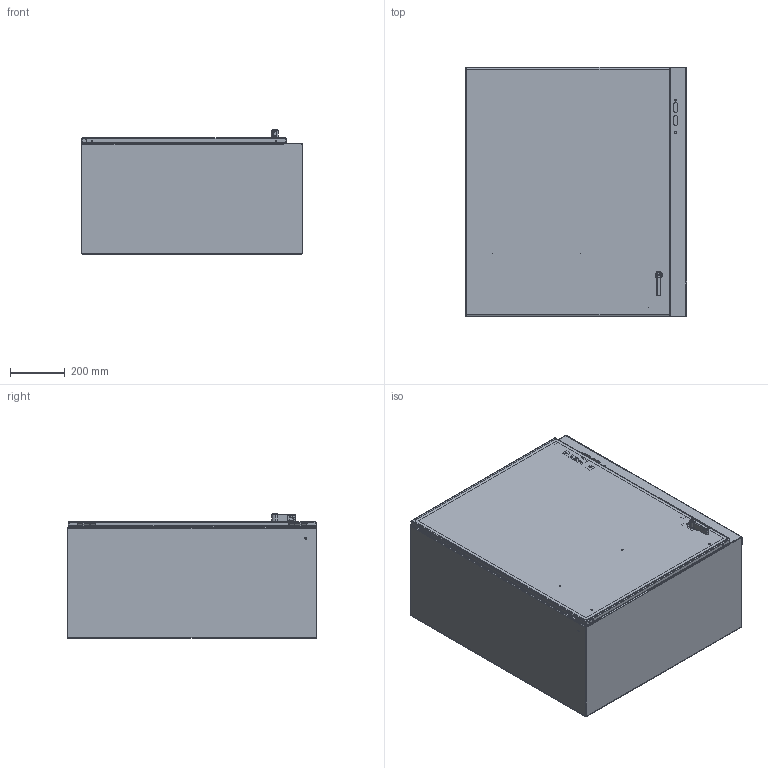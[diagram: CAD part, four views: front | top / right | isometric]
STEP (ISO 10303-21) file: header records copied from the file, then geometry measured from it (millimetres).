
FILE_DESCRIPTION (( 'STEP AP203' ), '1' );
FILE_NAME ('cdsc363216.STEP', '2020-02-14T16:02:57', ( '' ), ( '' ), 'SwSTEP 2.0', 'SolidWorks 2016', '' );
FILE_SCHEMA (( 'CONFIG_CONTROL_DESIGN' ));
Length unit declared in the file: inch
Products named in the file (43): 89076193; 64157001_Locked; 87938420_fip; 64205001; 64212004; 89173485; 87555298; 99411612; 87543027; 79410_LOCKED; 99401225_Config-Drawing; 99411834; 87784879_CWHPTO; 23271001_After Weld; 99411839_99411839; 89131630; 89173484; 87938398_assy; 99401225; 87938377; 89123200; 87541995; 87540678; 89117427; 87938434; 89117426; 64206006; 87415912_Locked; 51123001_Post weld; 89076399; 89117424; 64208001; cdsc363216; 22101011; 64210001; 87932266; 89123196; 87931362_87931362; 89117425; 64103001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
Assembly tree (59 placements, depth 5):
  cdsc363216
    89117427
      89117426
      89117424
      89117425
      23271001_After Weld  x6
      99401225_Config-Drawing
    87543027  x2
    89076399  x2
      89076193
      89131630
    87938398_assy
      87938420_fip
        87938377
        99401225  x3
        87931362_87931362  x2
        51123001_Post weld
      87415912_Locked
        64157001_Locked
          87540678
          64210001
          64208001
          64205001  x2
          87541995
          87932266
        64103001  x2
        64206006
        64207001
        99411834  x2
        64212004
        64144001
        99411612  x2
      87555298
      87938434
      22101011  x2
      99411839_99411839  x2
      89173484
      89173485
      89175157_89175157  x2
    87784879_CWHPTO
      79410_LOCKED
    89123200
      89123196
Bounding box: 811.53 x 914.4 x 454.96 mm (x, y, z)
Volume: 5910371 mm3; surface area: 6312299.1 mm2
Topology: 55 solids, 55 shells, 3494 faces, 9049 edges, 5705 vertices
Faces by surface type: plane 1619, cylinder 993, bspline 519, torus 193, cone 113, sphere 57
Entity records: 94931 total; most frequent: CARTESIAN_POINT 33078, ORIENTED_EDGE 12404, DIRECTION 10919, EDGE_CURVE 6202, VERTEX_POINT 3942, AXIS2_PLACEMENT_3D 3664, VECTOR 3591, LINE 3591
